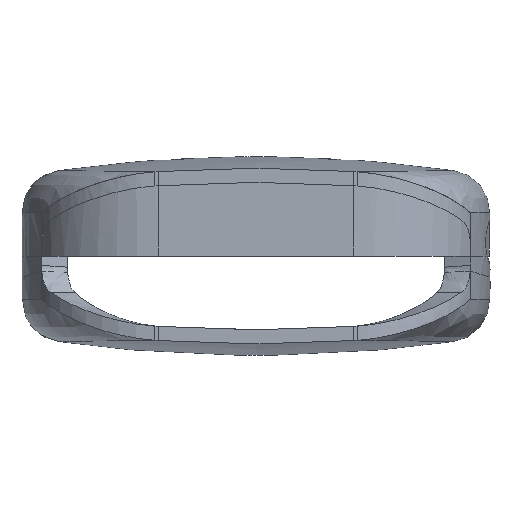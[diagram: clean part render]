
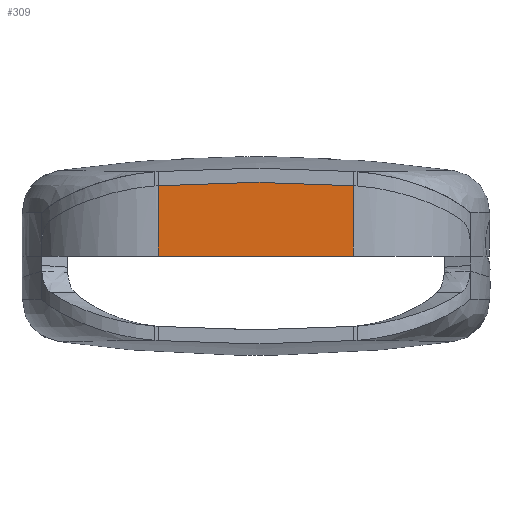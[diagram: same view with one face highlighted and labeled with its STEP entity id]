
A CAD part, left-side view. The second image highlights one B-rep face of the part: STEP entity #309.
In plain terms, the highlighted planar face has unit normal (-1, 0, 0).
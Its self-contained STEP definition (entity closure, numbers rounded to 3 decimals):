
#309=ADVANCED_FACE('',(#552),#514,.F.);
#514=PLANE('',#3337);
#552=FACE_OUTER_BOUND('',#731,.T.);
#731=EDGE_LOOP('',(#1198,#1199,#1200,#1201));
#968=LINE('',#3807,#1067);
#969=LINE('',#3809,#1068);
#970=LINE('',#3811,#1069);
#1067=VECTOR('',#3449,1.);
#1068=VECTOR('',#3450,1.);
#1069=VECTOR('',#3451,1.);
#1198=ORIENTED_EDGE('',*,*,#2465,.F.);
#1199=ORIENTED_EDGE('',*,*,#2466,.T.);
#1200=ORIENTED_EDGE('',*,*,#2467,.T.);
#1201=ORIENTED_EDGE('',*,*,#2468,.F.);
#2158=VERTEX_POINT('',#3805);
#2159=VERTEX_POINT('',#3806);
#2160=VERTEX_POINT('',#3808);
#2161=VERTEX_POINT('',#3810);
#2465=EDGE_CURVE('',#2158,#2159,#2945,.T.);
#2466=EDGE_CURVE('',#2158,#2160,#968,.T.);
#2467=EDGE_CURVE('',#2160,#2161,#969,.T.);
#2468=EDGE_CURVE('',#2159,#2161,#970,.T.);
#2945=B_SPLINE_CURVE_WITH_KNOTS('',3,(#3798,#3799,#3800,#3801,#3802,#3803,
#3804),.UNSPECIFIED.,.F.,.F.,(4,1,1,1,4),(0.,0.183,0.5,
0.712,1.),.UNSPECIFIED.);
#3337=AXIS2_PLACEMENT_3D('',#3812,#3452,#3453);
#3449=DIRECTION('',(0.,0.,-1.));
#3450=DIRECTION('',(0.,-1.,0.));
#3451=DIRECTION('',(0.,0.,-1.));
#3452=DIRECTION('',(1.,0.,0.));
#3453=DIRECTION('',(0.,1.,0.));
#3798=CARTESIAN_POINT('',(-24.,13.748,11.917));
#3799=CARTESIAN_POINT('',(-24.,12.075,12.033));
#3800=CARTESIAN_POINT('',(-24.,7.491,12.292));
#3801=CARTESIAN_POINT('',(-24.,0.967,12.435));
#3802=CARTESIAN_POINT('',(-24.,-6.52,12.326));
#3803=CARTESIAN_POINT('',(-24.,-11.107,12.1));
#3804=CARTESIAN_POINT('',(-24.,-13.748,11.917));
#3805=CARTESIAN_POINT('',(-24.,13.748,11.917));
#3806=CARTESIAN_POINT('',(-24.,-13.748,11.917));
#3807=CARTESIAN_POINT('',(-24.,13.748,14.));
#3808=CARTESIAN_POINT('',(-24.,13.748,0.));
#3809=CARTESIAN_POINT('',(-24.,13.748,0.));
#3810=CARTESIAN_POINT('',(-24.,-13.748,0.));
#3811=CARTESIAN_POINT('',(-24.,-13.748,14.));
#3812=CARTESIAN_POINT('',(-24.,13.748,14.));
